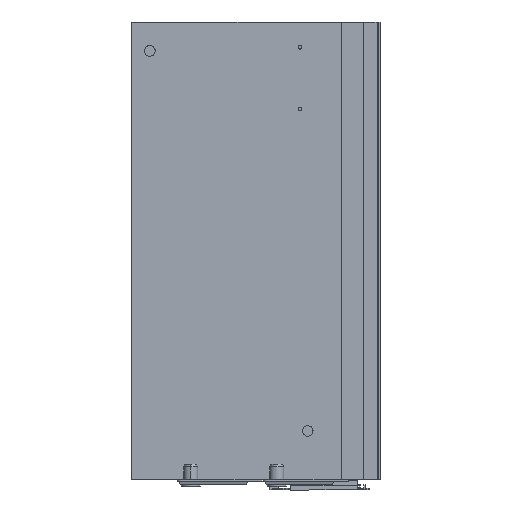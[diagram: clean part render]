
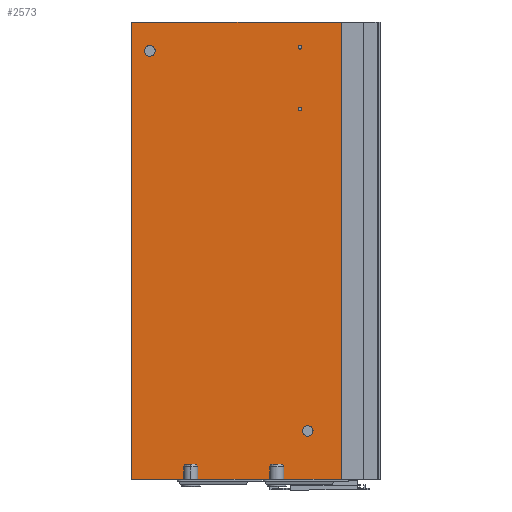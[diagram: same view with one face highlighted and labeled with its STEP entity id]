
A CAD part, left-side view. The second image highlights one B-rep face of the part: STEP entity #2573.
In plain terms, the highlighted planar face has unit normal (-1, 0, 0).
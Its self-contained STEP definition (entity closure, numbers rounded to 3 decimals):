
#5 = EDGE_LOOP ( 'NONE', ( #2696, #2467, #1181, #841, #3850, #1613, #3070 ) ) ;
#63 = VERTEX_POINT ( 'NONE', #4028 ) ;
#102 = LINE ( 'NONE', #2151, #3073 ) ;
#107 = CARTESIAN_POINT ( 'NONE',  ( -10.5, 142.5, -21.5 ) ) ;
#129 = CIRCLE ( 'NONE', #4109, 1.339 ) ;
#133 = FACE_BOUND ( 'NONE', #2756, .T. ) ;
#145 = CARTESIAN_POINT ( 'NONE',  ( -10.5, 142.5, -21.5 ) ) ;
#211 = VERTEX_POINT ( 'NONE', #3080 ) ;
#213 = VERTEX_POINT ( 'NONE', #3966 ) ;
#327 = ORIENTED_EDGE ( 'NONE', *, *, #3186, .T. ) ;
#359 = CARTESIAN_POINT ( 'NONE',  ( -10.5, 30.85, -18.85 ) ) ;
#423 = DIRECTION ( 'NONE',  ( 0., 1., 0. ) ) ;
#426 = CIRCLE ( 'NONE', #4102, 1.339 ) ;
#444 = DIRECTION ( 'NONE',  ( 1., 0., 0. ) ) ;
#453 = CARTESIAN_POINT ( 'NONE',  ( -10.5, 0., 0. ) ) ;
#459 = DIRECTION ( 'NONE',  ( 0., 1., 0. ) ) ;
#660 = CARTESIAN_POINT ( 'NONE',  ( -10.5, 25., -304. ) ) ;
#688 = DIRECTION ( 'NONE',  ( 0., 1., 0. ) ) ;
#722 = CARTESIAN_POINT ( 'NONE',  ( -10.5, 155.9, -340. ) ) ;
#728 = CARTESIAN_POINT ( 'NONE',  ( -10.5, 30.85, -64.56 ) ) ;
#753 = VERTEX_POINT ( 'NONE', #3415 ) ;
#821 = EDGE_CURVE ( 'NONE', #1509, #2990, #1250, .T. ) ;
#824 = DIRECTION ( 'NONE',  ( 0., 1., 0. ) ) ;
#837 = DIRECTION ( 'NONE',  ( 1., 0., 0. ) ) ;
#841 = ORIENTED_EDGE ( 'NONE', *, *, #3499, .F. ) ;
#851 = CARTESIAN_POINT ( 'NONE',  ( -10.5, 30.85, -18.85 ) ) ;
#903 = VECTOR ( 'NONE', #1963, 1000. ) ;
#904 = CARTESIAN_POINT ( 'NONE',  ( -10.5, 28.9, -304. ) ) ;
#929 = AXIS2_PLACEMENT_3D ( 'NONE', #660, #2905, #992 ) ;
#971 = CARTESIAN_POINT ( 'NONE',  ( -10.5, 156., 0. ) ) ;
#979 = AXIS2_PLACEMENT_3D ( 'NONE', #2705, #444, #2388 ) ;
#992 = DIRECTION ( 'NONE',  ( 0., 1., 0. ) ) ;
#1067 = DIRECTION ( 'NONE',  ( 0., 1., 0. ) ) ;
#1144 = VERTEX_POINT ( 'NONE', #904 ) ;
#1181 = ORIENTED_EDGE ( 'NONE', *, *, #3838, .F. ) ;
#1213 = DIRECTION ( 'NONE',  ( 1., 0., 0. ) ) ;
#1220 = VERTEX_POINT ( 'NONE', #1549 ) ;
#1250 = LINE ( 'NONE', #722, #1456 ) ;
#1274 = CARTESIAN_POINT ( 'NONE',  ( -10.5, 32.189, -18.85 ) ) ;
#1281 = DIRECTION ( 'NONE',  ( 0., -1., 0. ) ) ;
#1389 = LINE ( 'NONE', #3694, #3725 ) ;
#1428 = EDGE_LOOP ( 'NONE', ( #2133, #327 ) ) ;
#1456 = VECTOR ( 'NONE', #3052, 1000. ) ;
#1475 = VERTEX_POINT ( 'NONE', #1274 ) ;
#1496 = DIRECTION ( 'NONE',  ( 0., 1., 0. ) ) ;
#1509 = VERTEX_POINT ( 'NONE', #2610 ) ;
#1549 = CARTESIAN_POINT ( 'NONE',  ( -10.5, 58., -340. ) ) ;
#1575 = ORIENTED_EDGE ( 'NONE', *, *, #3105, .T. ) ;
#1597 = CIRCLE ( 'NONE', #979, 3.9 ) ;
#1613 = ORIENTED_EDGE ( 'NONE', *, *, #2219, .F. ) ;
#1620 = VERTEX_POINT ( 'NONE', #2272 ) ;
#1679 = EDGE_CURVE ( 'NONE', #2240, #1144, #1597, .T. ) ;
#1680 = VERTEX_POINT ( 'NONE', #3335 ) ;
#1773 = ORIENTED_EDGE ( 'NONE', *, *, #2799, .T. ) ;
#1809 = LINE ( 'NONE', #453, #1949 ) ;
#1910 = AXIS2_PLACEMENT_3D ( 'NONE', #3130, #1213, #3449 ) ;
#1949 = VECTOR ( 'NONE', #3323, 1000. ) ;
#1963 = DIRECTION ( 'NONE',  ( 0., 1., 0. ) ) ;
#2098 = ORIENTED_EDGE ( 'NONE', *, *, #3003, .T. ) ;
#2133 = ORIENTED_EDGE ( 'NONE', *, *, #3616, .T. ) ;
#2151 = CARTESIAN_POINT ( 'NONE',  ( -10.5, 155.9, -340. ) ) ;
#2152 = CIRCLE ( 'NONE', #929, 3.9 ) ;
#2201 = ORIENTED_EDGE ( 'NONE', *, *, #3883, .T. ) ;
#2219 = EDGE_CURVE ( 'NONE', #1620, #63, #1809, .T. ) ;
#2232 = DIRECTION ( 'NONE',  ( 0., 0., -1. ) ) ;
#2240 = VERTEX_POINT ( 'NONE', #3706 ) ;
#2272 = CARTESIAN_POINT ( 'NONE',  ( -10.5, 0., 0. ) ) ;
#2307 = LINE ( 'NONE', #3798, #2853 ) ;
#2325 = CIRCLE ( 'NONE', #3892, 1.339 ) ;
#2373 = DIRECTION ( 'NONE',  ( 1., 0., 0. ) ) ;
#2388 = DIRECTION ( 'NONE',  ( 0., 1., 0. ) ) ;
#2406 = DIRECTION ( 'NONE',  ( 1., 0., 0. ) ) ;
#2467 = ORIENTED_EDGE ( 'NONE', *, *, #821, .F. ) ;
#2511 = CIRCLE ( 'NONE', #3956, 4. ) ;
#2555 = VECTOR ( 'NONE', #1281, 1000. ) ;
#2573 = ADVANCED_FACE ( 'NONE', ( #3362, #3604, #3819, #3245, #133 ), #3753, .F. ) ;
#2601 = CARTESIAN_POINT ( 'NONE',  ( -10.5, 156., -340. ) ) ;
#2610 = CARTESIAN_POINT ( 'NONE',  ( -10.5, 122., -340. ) ) ;
#2627 = DIRECTION ( 'NONE',  ( 1., 0., 0. ) ) ;
#2696 = ORIENTED_EDGE ( 'NONE', *, *, #3423, .T. ) ;
#2705 = CARTESIAN_POINT ( 'NONE',  ( -10.5, 25., -304. ) ) ;
#2714 = CIRCLE ( 'NONE', #1910, 1.339 ) ;
#2736 = CARTESIAN_POINT ( 'NONE',  ( -10.5, 29.511, -18.85 ) ) ;
#2756 = EDGE_LOOP ( 'NONE', ( #3303, #3253 ) ) ;
#2799 = EDGE_CURVE ( 'NONE', #3755, #1475, #2325, .T. ) ;
#2824 = CARTESIAN_POINT ( 'NONE',  ( -10.5, 142.5, -25.5 ) ) ;
#2853 = VECTOR ( 'NONE', #2232, 1000. ) ;
#2905 = DIRECTION ( 'NONE',  ( 1., 0., 0. ) ) ;
#2965 = CIRCLE ( 'NONE', #3460, 4. ) ;
#2983 = DIRECTION ( 'NONE',  ( 1., 0., 0. ) ) ;
#2990 = VERTEX_POINT ( 'NONE', #3213 ) ;
#3003 = EDGE_CURVE ( 'NONE', #1475, #3755, #426, .T. ) ;
#3052 = DIRECTION ( 'NONE',  ( 0., 1., 0. ) ) ;
#3070 = ORIENTED_EDGE ( 'NONE', *, *, #4045, .F. ) ;
#3073 = VECTOR ( 'NONE', #1496, 1000. ) ;
#3080 = CARTESIAN_POINT ( 'NONE',  ( -10.5, 32.189, -64.56 ) ) ;
#3105 = EDGE_CURVE ( 'NONE', #211, #1680, #129, .T. ) ;
#3125 = LINE ( 'NONE', #3190, #2555 ) ;
#3130 = CARTESIAN_POINT ( 'NONE',  ( -10.5, 30.85, -64.56 ) ) ;
#3186 = EDGE_CURVE ( 'NONE', #3938, #753, #2965, .T. ) ;
#3190 = CARTESIAN_POINT ( 'NONE',  ( -10.5, 156., 0. ) ) ;
#3213 = CARTESIAN_POINT ( 'NONE',  ( -10.5, 156., -340. ) ) ;
#3245 = FACE_OUTER_BOUND ( 'NONE', #5, .T. ) ;
#3253 = ORIENTED_EDGE ( 'NONE', *, *, #1679, .T. ) ;
#3303 = ORIENTED_EDGE ( 'NONE', *, *, #4132, .T. ) ;
#3323 = DIRECTION ( 'NONE',  ( 0., 0., -1. ) ) ;
#3330 = LINE ( 'NONE', #2601, #903 ) ;
#3335 = CARTESIAN_POINT ( 'NONE',  ( -10.5, 29.511, -64.56 ) ) ;
#3362 = FACE_BOUND ( 'NONE', #3864, .T. ) ;
#3415 = CARTESIAN_POINT ( 'NONE',  ( -10.5, 142.5, -17.5 ) ) ;
#3423 = EDGE_CURVE ( 'NONE', #3478, #2990, #2307, .T. ) ;
#3449 = DIRECTION ( 'NONE',  ( 0., 1., 0. ) ) ;
#3460 = AXIS2_PLACEMENT_3D ( 'NONE', #145, #2406, #459 ) ;
#3478 = VERTEX_POINT ( 'NONE', #971 ) ;
#3499 = EDGE_CURVE ( 'NONE', #1220, #213, #3330, .T. ) ;
#3604 = FACE_BOUND ( 'NONE', #4071, .T. ) ;
#3616 = EDGE_CURVE ( 'NONE', #753, #3938, #2511, .T. ) ;
#3694 = CARTESIAN_POINT ( 'NONE',  ( -10.5, 155.9, -340. ) ) ;
#3704 = AXIS2_PLACEMENT_3D ( 'NONE', #3820, #4021, #4029 ) ;
#3706 = CARTESIAN_POINT ( 'NONE',  ( -10.5, 21.1, -304. ) ) ;
#3725 = VECTOR ( 'NONE', #4012, 1000. ) ;
#3753 = PLANE ( 'NONE',  #3704 ) ;
#3755 = VERTEX_POINT ( 'NONE', #2736 ) ;
#3786 = EDGE_CURVE ( 'NONE', #63, #1220, #1389, .T. ) ;
#3798 = CARTESIAN_POINT ( 'NONE',  ( -10.5, 156., 0. ) ) ;
#3819 = FACE_BOUND ( 'NONE', #1428, .T. ) ;
#3820 = CARTESIAN_POINT ( 'NONE',  ( -10.5, 156., 0. ) ) ;
#3838 = EDGE_CURVE ( 'NONE', #213, #1509, #102, .T. ) ;
#3850 = ORIENTED_EDGE ( 'NONE', *, *, #3786, .F. ) ;
#3864 = EDGE_LOOP ( 'NONE', ( #1773, #2098 ) ) ;
#3883 = EDGE_CURVE ( 'NONE', #1680, #211, #2714, .T. ) ;
#3892 = AXIS2_PLACEMENT_3D ( 'NONE', #851, #837, #824 ) ;
#3938 = VERTEX_POINT ( 'NONE', #2824 ) ;
#3956 = AXIS2_PLACEMENT_3D ( 'NONE', #107, #2373, #423 ) ;
#3966 = CARTESIAN_POINT ( 'NONE',  ( -10.5, 58.8, -340. ) ) ;
#4012 = DIRECTION ( 'NONE',  ( 0., 1., 0. ) ) ;
#4021 = DIRECTION ( 'NONE',  ( 1., 0., 0. ) ) ;
#4028 = CARTESIAN_POINT ( 'NONE',  ( -10.5, 0., -340. ) ) ;
#4029 = DIRECTION ( 'NONE',  ( 0., 1., 0. ) ) ;
#4045 = EDGE_CURVE ( 'NONE', #3478, #1620, #3125, .T. ) ;
#4071 = EDGE_LOOP ( 'NONE', ( #2201, #1575 ) ) ;
#4102 = AXIS2_PLACEMENT_3D ( 'NONE', #359, #2627, #688 ) ;
#4109 = AXIS2_PLACEMENT_3D ( 'NONE', #728, #2983, #1067 ) ;
#4132 = EDGE_CURVE ( 'NONE', #1144, #2240, #2152, .T. ) ;
